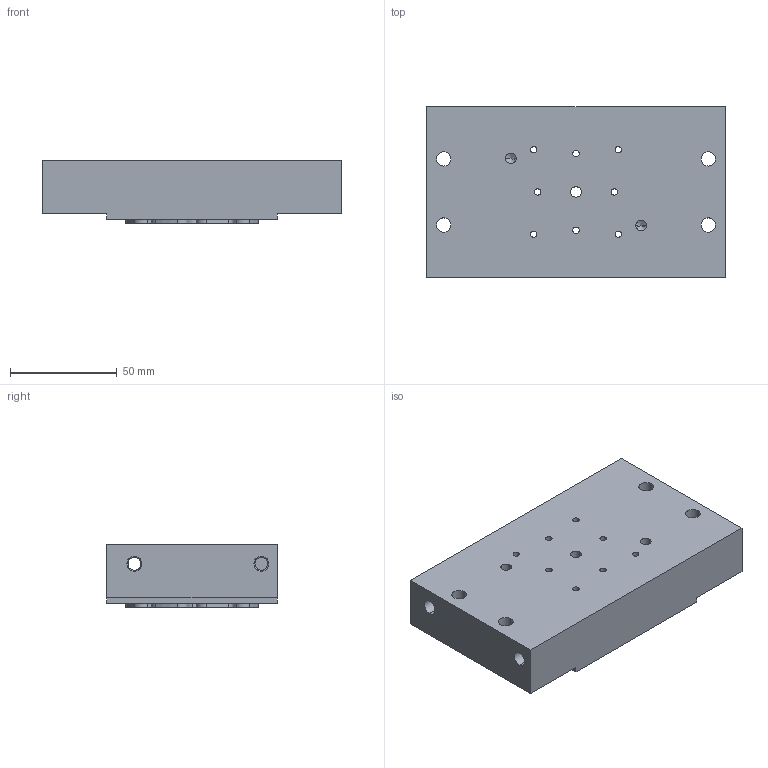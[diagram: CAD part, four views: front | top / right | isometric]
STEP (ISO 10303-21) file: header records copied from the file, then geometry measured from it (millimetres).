
FILE_DESCRIPTION (( 'STEP AP203' ), '1' );
FILE_NAME ('007 Plaque empreinte partie mobile.STEP', '2021-10-27T18:20:23', ( '' ), ( '' ), 'SwSTEP 2.0', 'SolidWorks 2019', '' );
FILE_SCHEMA (( 'CONFIG_CONTROL_DESIGN' ));
Length unit declared in the file: millimetre
Products named in the file (1): 007 Plaque empreinte partie mobile
Bounding box: 140 x 80 x 29.5 mm (x, y, z)
Volume: 278208.5 mm3; surface area: 48113 mm2
Topology: 1 solids, 1 shells, 204 faces, 540 edges, 342 vertices
Faces by surface type: cylinder 136, plane 50, cone 18
Entity records: 6623 total; most frequent: CARTESIAN_POINT 1309, DIRECTION 1180, ORIENTED_EDGE 1056, EDGE_CURVE 528, AXIS2_PLACEMENT_3D 477, VERTEX_POINT 338, CIRCLE 272, EDGE_LOOP 252
